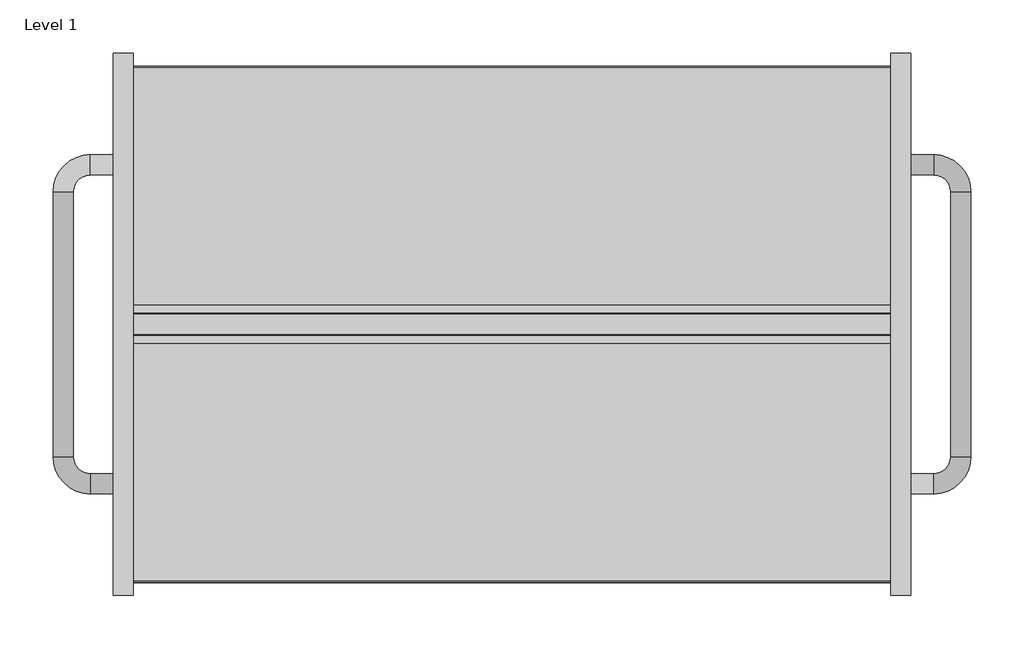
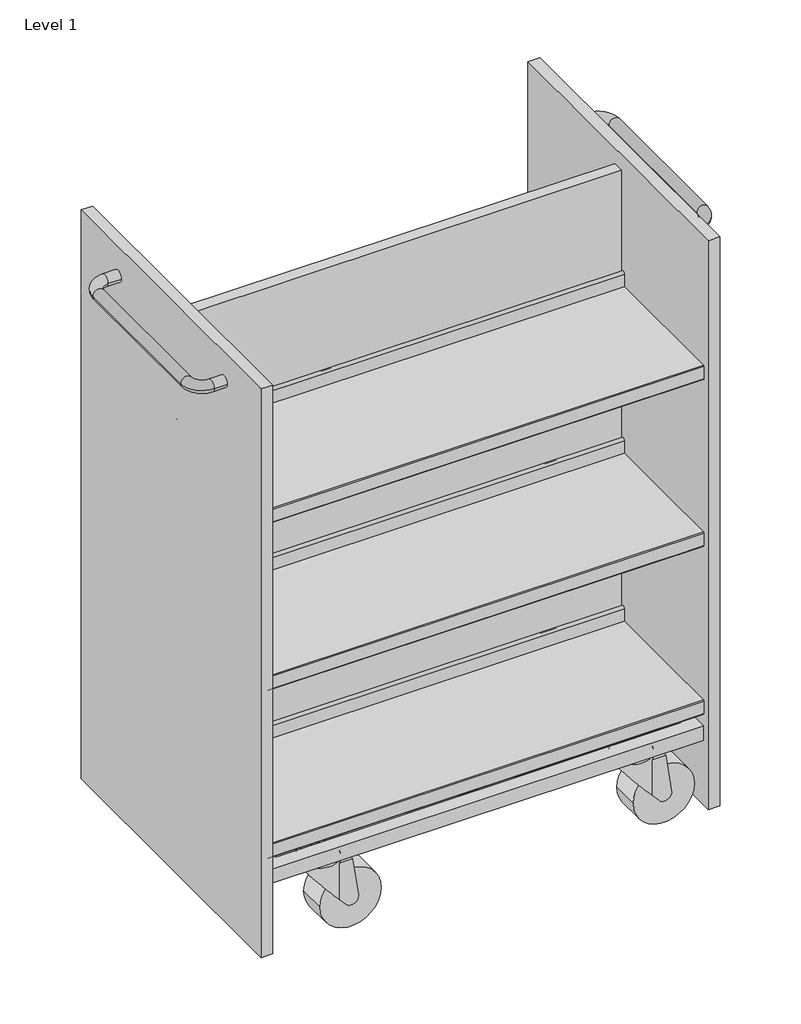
# One storey: 1 furniture element.
"""IFC4 building model written with IfcOpenShell, lengths in millimetres."""

from ifc_helpers import new_model, si_unit, origin, place, context, project, spatial, transform, mapped, element, save
from components import furniture_164f6c11, furniture_c6fde251

model = new_model("IFC4")

# Units and contexts
model_context = context("Model", 3, world=origin())
ifc_project = project(units=[si_unit("LENGTHUNIT", "METRE", prefix="MILLI")], contexts=[model_context])

# Site, building, storey
site = spatial("IfcSite", under=ifc_project)
building = spatial("IfcBuilding", under=site)
storey = spatial("IfcBuildingStorey", under=building, Name="Level 1", Elevation=0.0)

# Furniture
placement = place(None, origin())
furniture_shape = furniture_164f6c11(model_context)
furniture_2_shape = furniture_c6fde251(model_context)
element("IfcFurniture", 1, ObjectType="BK Library - Smaaland - Book Trolley : BK Library - Smaaland - Book Trolley", at=placement, inside=storey, context=model_context, shape_type="MappedRepresentation", body=[
    mapped(furniture_shape, transform((-2709.7402553, 2197.9079229, -348.6569781), x_axis=(1.0, 0.0, 0.0), y_axis=(0.0, 1.0, 0.0), z_axis=(0.0, 0.0, 1.0))),
    mapped(furniture_2_shape, transform((-2709.7402553, 2197.9079229, -348.6569781), x_axis=(1.0, 0.0, 0.0), y_axis=(0.0, 1.0, 0.0), z_axis=(0.0, 0.0, 1.0))),
])

save(model, "model.ifc")
